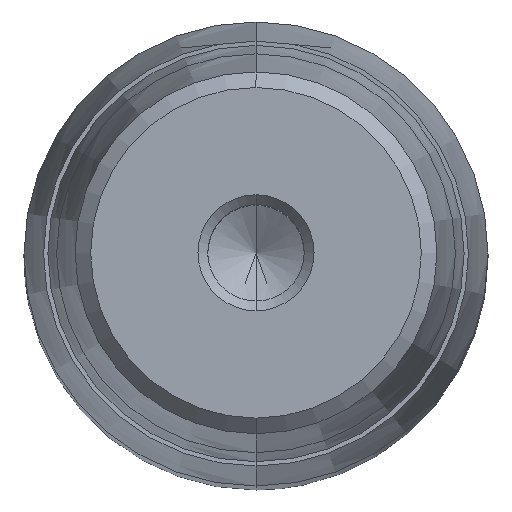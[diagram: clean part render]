
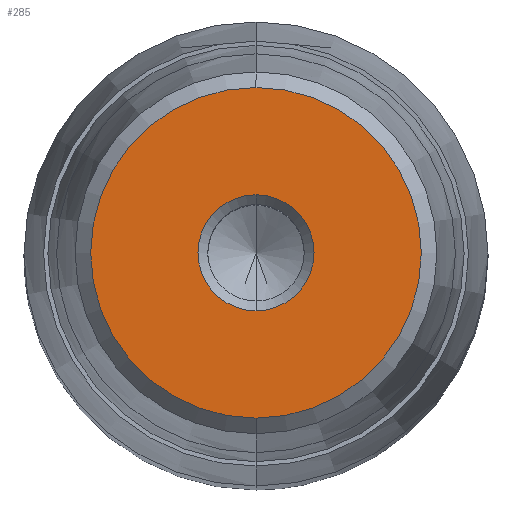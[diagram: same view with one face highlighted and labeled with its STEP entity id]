
A CAD part, top view. The second image highlights one B-rep face of the part: STEP entity #285.
In plain terms, the highlighted planar face has unit normal (0, 0, 1).
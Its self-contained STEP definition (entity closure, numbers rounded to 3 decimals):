
#164=CARTESIAN_POINT('Axis2P3D Location',(0.,0.,48.)) ;
#168=CARTESIAN_POINT('Vertex',(4.,0.,48.)) ;
#170=CARTESIAN_POINT('Vertex',(0.,-4.,48.)) ;
#173=CARTESIAN_POINT('Axis2P3D Location',(0.,0.,48.)) ;
#177=CARTESIAN_POINT('Vertex',(0.,4.,48.)) ;
#228=CARTESIAN_POINT('Axis2P3D Location',(0.,4.,48.)) ;
#233=CARTESIAN_POINT('Axis2P3D Location',(0.,0.,48.)) ;
#237=CARTESIAN_POINT('Vertex',(0.,11.4,48.)) ;
#239=CARTESIAN_POINT('Vertex',(11.4,0.,48.)) ;
#242=CARTESIAN_POINT('Axis2P3D Location',(0.,0.,48.)) ;
#246=CARTESIAN_POINT('Vertex',(-11.4,0.,48.)) ;
#249=CARTESIAN_POINT('Axis2P3D Location',(0.,0.,48.)) ;
#253=CARTESIAN_POINT('Vertex',(0.,-11.4,48.)) ;
#256=CARTESIAN_POINT('Axis2P3D Location',(0.,0.,48.)) ;
#267=CARTESIAN_POINT('Axis2P3D Location',(0.,0.,48.)) ;
#271=CARTESIAN_POINT('Vertex',(-4.,0.,48.)) ;
#274=CARTESIAN_POINT('Axis2P3D Location',(0.,0.,48.)) ;
#165=DIRECTION('Axis2P3D Direction',(-0.,0.,1.)) ;
#174=DIRECTION('Axis2P3D Direction',(-0.,0.,1.)) ;
#229=DIRECTION('Axis2P3D Direction',(0.,0.,-1.)) ;
#230=DIRECTION('Axis2P3D XDirection',(0.,1.,0.)) ;
#234=DIRECTION('Axis2P3D Direction',(0.,0.,-1.)) ;
#243=DIRECTION('Axis2P3D Direction',(0.,0.,-1.)) ;
#250=DIRECTION('Axis2P3D Direction',(0.,0.,-1.)) ;
#257=DIRECTION('Axis2P3D Direction',(0.,0.,-1.)) ;
#268=DIRECTION('Axis2P3D Direction',(0.,0.,-1.)) ;
#275=DIRECTION('Axis2P3D Direction',(0.,0.,-1.)) ;
#166=AXIS2_PLACEMENT_3D('Circle Axis2P3D',#164,#165,$) ;
#175=AXIS2_PLACEMENT_3D('Circle Axis2P3D',#173,#174,$) ;
#231=AXIS2_PLACEMENT_3D('Plane Axis2P3D',#228,#229,#230) ;
#235=AXIS2_PLACEMENT_3D('Circle Axis2P3D',#233,#234,$) ;
#244=AXIS2_PLACEMENT_3D('Circle Axis2P3D',#242,#243,$) ;
#251=AXIS2_PLACEMENT_3D('Circle Axis2P3D',#249,#250,$) ;
#258=AXIS2_PLACEMENT_3D('Circle Axis2P3D',#256,#257,$) ;
#269=AXIS2_PLACEMENT_3D('Circle Axis2P3D',#267,#268,$) ;
#276=AXIS2_PLACEMENT_3D('Circle Axis2P3D',#274,#275,$) ;
#262=ORIENTED_EDGE('',*,*,#241,.F.) ;
#263=ORIENTED_EDGE('',*,*,#248,.F.) ;
#264=ORIENTED_EDGE('',*,*,#255,.F.) ;
#265=ORIENTED_EDGE('',*,*,#260,.F.) ;
#280=ORIENTED_EDGE('',*,*,#172,.T.) ;
#281=ORIENTED_EDGE('',*,*,#273,.T.) ;
#282=ORIENTED_EDGE('',*,*,#278,.T.) ;
#283=ORIENTED_EDGE('',*,*,#179,.T.) ;
#284=FACE_BOUND('',#279,.T.) ;
#285=ADVANCED_FACE('722-32x180x213',(#266,#284),#232,.F.) ;
#167=CIRCLE('generated circle',#166,4.) ;
#176=CIRCLE('generated circle',#175,4.) ;
#236=CIRCLE('generated circle',#235,11.4) ;
#245=CIRCLE('generated circle',#244,11.4) ;
#252=CIRCLE('generated circle',#251,11.4) ;
#259=CIRCLE('generated circle',#258,11.4) ;
#270=CIRCLE('generated circle',#269,4.) ;
#277=CIRCLE('generated circle',#276,4.) ;
#172=EDGE_CURVE('',#169,#171,#167,.F.) ;
#179=EDGE_CURVE('',#178,#169,#176,.F.) ;
#241=EDGE_CURVE('',#238,#240,#236,.T.) ;
#248=EDGE_CURVE('',#247,#238,#245,.T.) ;
#255=EDGE_CURVE('',#254,#247,#252,.T.) ;
#260=EDGE_CURVE('',#240,#254,#259,.T.) ;
#273=EDGE_CURVE('',#171,#272,#270,.T.) ;
#278=EDGE_CURVE('',#272,#178,#277,.T.) ;
#261=EDGE_LOOP('',(#262,#263,#264,#265)) ;
#279=EDGE_LOOP('',(#280,#281,#282,#283)) ;
#266=FACE_OUTER_BOUND('',#261,.T.) ;
#232=PLANE('Plane',#231) ;
#169=VERTEX_POINT('',#168) ;
#171=VERTEX_POINT('',#170) ;
#178=VERTEX_POINT('',#177) ;
#238=VERTEX_POINT('',#237) ;
#240=VERTEX_POINT('',#239) ;
#247=VERTEX_POINT('',#246) ;
#254=VERTEX_POINT('',#253) ;
#272=VERTEX_POINT('',#271) ;
